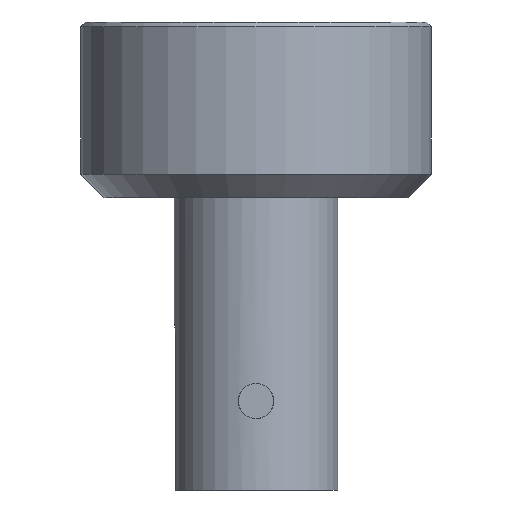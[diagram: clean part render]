
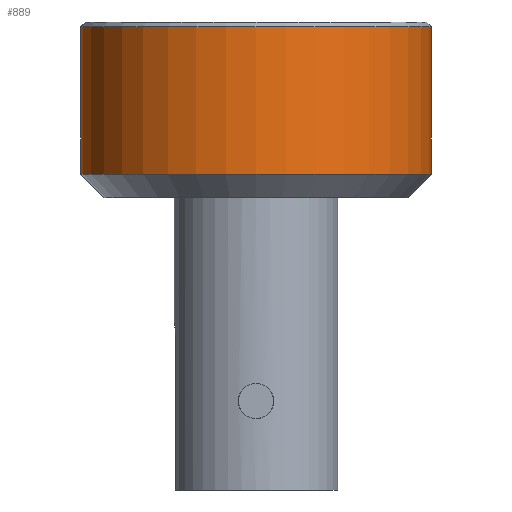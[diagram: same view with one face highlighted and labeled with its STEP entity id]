
A CAD part, front view. The second image highlights one B-rep face of the part: STEP entity #889.
In plain terms, the highlighted cylindrical face has radius 7.5 mm (diameter 15 mm), a partial arc.
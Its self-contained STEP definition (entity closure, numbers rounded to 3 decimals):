
#885 = ORIENTED_EDGE ( 'NONE', *, *, #1041, .T. ) ;
#886 = EDGE_LOOP ( 'NONE', ( #891, #893, #885, #894 ) ) ;
#887 = EDGE_CURVE ( 'NONE', #914, #961, #1227, .T. ) ;
#889 = ADVANCED_FACE ( 'NONE', ( #1228 ), #1284, .T. ) ;
#890 = EDGE_CURVE ( 'NONE', #978, #981, #1280, .T. ) ;
#891 = ORIENTED_EDGE ( 'NONE', *, *, #1038, .F. ) ;
#893 = ORIENTED_EDGE ( 'NONE', *, *, #890, .T. ) ;
#894 = ORIENTED_EDGE ( 'NONE', *, *, #887, .T. ) ;
#914 = VERTEX_POINT ( 'NONE', #1389 ) ;
#961 = VERTEX_POINT ( 'NONE', #1507 ) ;
#978 = VERTEX_POINT ( 'NONE', #1540 ) ;
#981 = VERTEX_POINT ( 'NONE', #1534 ) ;
#1038 = EDGE_CURVE ( 'NONE', #978, #961, #1716, .T. ) ;
#1041 = EDGE_CURVE ( 'NONE', #981, #914, #1712, .T. ) ;
#1226 = AXIS2_PLACEMENT_3D ( 'NONE', #1289, #1288, #1287 ) ;
#1227 = CIRCLE ( 'NONE', #1226, 7.5 ) ;
#1228 = FACE_OUTER_BOUND ( 'NONE', #886, .T. ) ;
#1277 = DIRECTION ( 'NONE',  ( 1., 0., 0. ) ) ;
#1278 = DIRECTION ( 'NONE',  ( 0., 0., -1. ) ) ;
#1279 = AXIS2_PLACEMENT_3D ( 'NONE', #1285, #1278, #1277 ) ;
#1280 = CIRCLE ( 'NONE', #1279, 7.5 ) ;
#1281 = DIRECTION ( 'NONE',  ( -1., 0., 0. ) ) ;
#1282 = DIRECTION ( 'NONE',  ( 0., 0., -1. ) ) ;
#1283 = AXIS2_PLACEMENT_3D ( 'NONE', #1286, #1282, #1281 ) ;
#1284 = CYLINDRICAL_SURFACE ( 'NONE', #1283, 7.5 ) ;
#1285 = CARTESIAN_POINT ( 'NONE',  ( 0., 0., 7.3 ) ) ;
#1286 = CARTESIAN_POINT ( 'NONE',  ( 0., 0., 7.5 ) ) ;
#1287 = DIRECTION ( 'NONE',  ( 1., 0., 0. ) ) ;
#1288 = DIRECTION ( 'NONE',  ( 0., 0., 1. ) ) ;
#1289 = CARTESIAN_POINT ( 'NONE',  ( 0., 0., 1. ) ) ;
#1389 = CARTESIAN_POINT ( 'NONE',  ( -7.5, 0., 1. ) ) ;
#1507 = CARTESIAN_POINT ( 'NONE',  ( 7.5, 0., 1. ) ) ;
#1534 = CARTESIAN_POINT ( 'NONE',  ( -7.5, 0., 7.3 ) ) ;
#1540 = CARTESIAN_POINT ( 'NONE',  ( 7.5, 0., 7.3 ) ) ;
#1709 = DIRECTION ( 'NONE',  ( 0., 0., -1. ) ) ;
#1710 = VECTOR ( 'NONE', #1709, 1000. ) ;
#1711 = CARTESIAN_POINT ( 'NONE',  ( -7.5, 0., 7.5 ) ) ;
#1712 = LINE ( 'NONE', #1711, #1710 ) ;
#1713 = DIRECTION ( 'NONE',  ( 0., 0., -1. ) ) ;
#1714 = VECTOR ( 'NONE', #1713, 1000. ) ;
#1715 = CARTESIAN_POINT ( 'NONE',  ( 7.5, 0., 7.5 ) ) ;
#1716 = LINE ( 'NONE', #1715, #1714 ) ;
